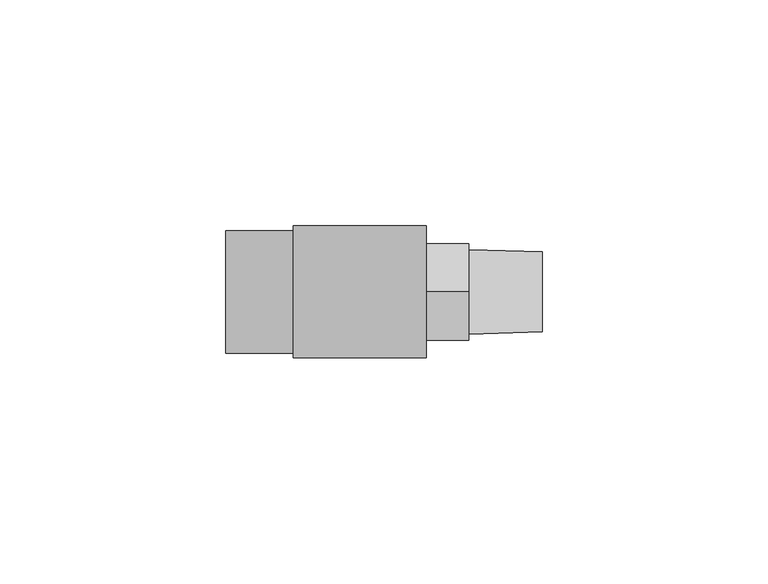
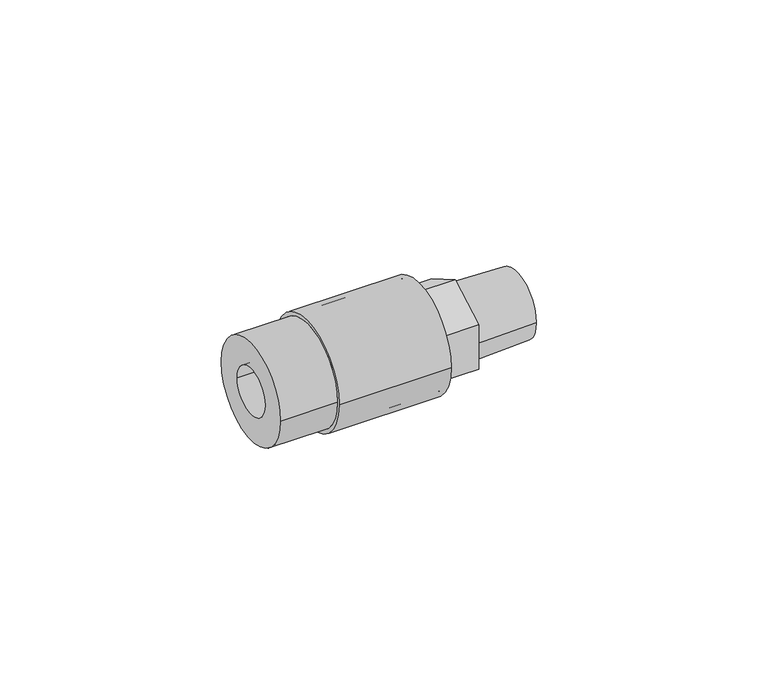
"""IFC4 building model written with IfcOpenShell, lengths in millimetres: pipe fitting geometry, Aquatherm - Fusion Outlet Transition Male : POTABLE BRASS - HEX."""

import ifcopenshell
import ifcopenshell.guid

model = None  # the IFC model being written
_history = None  # IfcOwnerHistory: only IFC2X3 demands one
_inside = {}  # id of a spatial element -> (the spatial element, [elements in it])
_under = {}  # id of a project, library or spatial element -> (it, [spatial elements below it])
_declared = {}  # id of a project -> (the project, [libraries it declares])
_typed = {}  # id of a type object -> (the type object, [elements of that type])
_made_of = {}  # id of a material, layer set ... -> (it, [elements and type objects made of it])


def new_model(schema):
    """Start an empty IFC model of exactly this schema.

    Asked for "IFC4X3", IfcOpenShell would pick the latest addendum, in which some entities
    have other attributes; the version numbers below select the first issue.
    IFC2X3 requires an IfcOwnerHistory on every rooted entity: one is made here for all.
    """
    global model, _history
    if schema == "IFC4X3":
        model = ifcopenshell.file(schema_version=(4, 3, 0, 0))
    else:
        model = ifcopenshell.file(schema=schema)
    _inside.clear()
    _under.clear()
    _declared.clear()
    _typed.clear()
    _made_of.clear()
    _history = None
    if model.schema == "IFC2X3":
        org = make("IfcOrganization", Name="unknown")
        user = make(
            "IfcPersonAndOrganization",
            ThePerson=make("IfcPerson", FamilyName="unknown"),
            TheOrganization=org,
        )
        app = make(
            "IfcApplication",
            ApplicationDeveloper=org,
            Version="unknown",
            ApplicationFullName="unknown",
            ApplicationIdentifier="unknown",
        )
        _history = make(
            "IfcOwnerHistory",
            OwningUser=user,
            OwningApplication=app,
            ChangeAction="ADDED",
            CreationDate=0,
        )
    return model


def make(cls, **values):
    """One entity of the class cls with the attributes given. An attribute that is None is left unset."""
    return model.create_entity(
        cls, **{name: value for name, value in values.items() if value is not None}
    )


def rooted(cls, **values):
    """An entity with a GlobalId (a new one), such as an element, a storey or a relation."""
    return make(cls, GlobalId=ifcopenshell.guid.new(), OwnerHistory=_history, **values)


def si_unit(unit_type, name, prefix=None):
    """IfcSIUnit, for example si_unit("LENGTHUNIT", "METRE", prefix="MILLI")."""
    return make("IfcSIUnit", UnitType=unit_type, Prefix=prefix, Name=name)


def assignment(units):
    """IfcUnitAssignment: the units of a project."""
    return None if units is None else make("IfcUnitAssignment", Units=units)


def point(xyz):
    """IfcCartesianPoint."""
    return None if xyz is None else make("IfcCartesianPoint", Coordinates=xyz)


def direction(xyz):
    """IfcDirection."""
    return None if xyz is None else make("IfcDirection", DirectionRatios=xyz)


def frame(location, z_axis=None, x_axis=None):
    """IfcAxis2Placement3D, a coordinate frame: its origin and axes. An axis left out is left unset."""
    return make(
        "IfcAxis2Placement3D",
        Location=point(location),
        Axis=direction(z_axis),
        RefDirection=direction(x_axis),
    )


def origin():
    """The frame at (0, 0, 0) with its axes left unset."""
    return frame((0.0, 0.0, 0.0))


def place(relative_to, where):
    """IfcLocalPlacement: puts the frame where relative to a parent placement (None: the world)."""
    return make(
        "IfcLocalPlacement", PlacementRelTo=relative_to, RelativePlacement=where
    )


def context(
    kind, dimensions, precision=None, world=None, true_north=None, identifier=None
):
    """IfcGeometricRepresentationContext, for example the 3D "Model" context."""
    return make(
        "IfcGeometricRepresentationContext",
        ContextIdentifier=identifier,
        ContextType=kind,
        CoordinateSpaceDimension=dimensions,
        Precision=precision,
        WorldCoordinateSystem=world,
        TrueNorth=true_north,
    )


def project(units=None, contexts=None):
    """IfcProject with its units and contexts."""
    return rooted(
        "IfcProject",
        Name="project",
        RepresentationContexts=contexts,
        UnitsInContext=assignment(units),
    )


def spatial(cls, under=None, at=None, **own):
    """A site, building, storey or space (cls), placed at a placement, below another one or the project."""
    s = rooted(cls, ObjectPlacement=at, **own)
    if under is not None:
        _under.setdefault(under.id(), (under, []))[1].append(s)
    return s


def polyline(points):
    """IfcPolyline through the points."""
    return make("IfcPolyline", Points=[point(p) for p in points])


def circle_curve(where, radius):
    """IfcCircle in the frame where."""
    return make("IfcCircle", Position=where, Radius=radius)


def shape(context_of_items, identifier, shape_type, items):
    """IfcShapeRepresentation: the items that make up one representation, for example the "Body"."""
    return make(
        "IfcShapeRepresentation",
        ContextOfItems=context_of_items,
        RepresentationIdentifier=identifier,
        RepresentationType=shape_type,
        Items=items,
    )


def source(mapping_origin, context_of_items, identifier, shape_type, items):
    """IfcRepresentationMap: a shape defined once, which mapped items show again and again."""
    return make(
        "IfcRepresentationMap",
        MappingOrigin=mapping_origin,
        MappedRepresentation=shape(context_of_items, identifier, shape_type, items),
    )


def transform(
    local_origin,
    x_axis=None,
    y_axis=None,
    z_axis=None,
    scale=None,
    scale2=None,
    scale3=None,
    uniform=True,
):
    """IfcCartesianTransformationOperator3D, or its non-uniform kind. x_axis, y_axis, z_axis: its Axis1, 2, 3."""
    if uniform:
        return make(
            "IfcCartesianTransformationOperator3D",
            Axis1=direction(x_axis),
            Axis2=direction(y_axis),
            LocalOrigin=point(local_origin),
            Scale=scale,
            Axis3=direction(z_axis),
        )
    return make(
        "IfcCartesianTransformationOperator3DnonUniform",
        Axis1=direction(x_axis),
        Axis2=direction(y_axis),
        LocalOrigin=point(local_origin),
        Scale=scale,
        Axis3=direction(z_axis),
        Scale2=scale2,
        Scale3=scale3,
    )


def mapped(mapping_source, mapping_target):
    """IfcMappedItem: shows the shape of a source again, moved by a transform."""
    return make(
        "IfcMappedItem", MappingSource=mapping_source, MappingTarget=mapping_target
    )


def made_of(thing, what):
    """Note that an element or type object is made of a material, layer set ...; save() writes the relation."""
    if what is not None:
        _made_of.setdefault(what.id(), (what, []))[1].append(thing)
    return thing


def element(
    cls,
    number,
    at=None,
    inside=None,
    cuts=None,
    type_object=None,
    material=None,
    context=None,
    identifier="Body",
    shape_type=None,
    held_by="IfcProductDefinitionShape",
    body=None,
    shapes=None,
    **own,
):
    """One element of the class cls, such as IfcWall. Its Tag is "e" and its number.

    at: its placement. inside: the storey or other place that contains it. cuts: it is an
    opening in that element (IfcRelVoidsElement). A single representation is given by context,
    identifier, shape_type and body (its items); several are given by shapes. held_by: the class
    of the entity that holds the representations. save() writes the other relations.
    """
    e = rooted(cls, Tag="e%d" % number, ObjectPlacement=at, **own)
    if body is not None:
        shapes = [shape(context, identifier, shape_type, body)]
    if shapes is not None:
        e.Representation = make(held_by, Representations=shapes)
    if inside is not None:
        _inside.setdefault(inside.id(), (inside, []))[1].append(e)
    if cuts is not None:
        rooted(
            "IfcRelVoidsElement", RelatingBuildingElement=cuts, RelatedOpeningElement=e
        )
    if type_object is not None:
        _typed.setdefault(type_object.id(), (type_object, []))[1].append(e)
    return made_of(e, material)


def aggregate(whole, parts):
    """IfcRelAggregates: a whole, such as a stair, and the parts it consists of."""
    return rooted("IfcRelAggregates", RelatingObject=whole, RelatedObjects=parts)


def save(model, path):
    """Write the relations noted so far, then the file.

    IfcRelAggregates (storeys below a building ...), IfcRelContainedInSpatialStructure (elements
    in a storey), IfcRelDefinesByType, IfcRelAssociatesMaterial and IfcRelDeclares: one each for
    every whole, place, type object, material and project.
    """
    for whole, parts in _under.values():
        aggregate(whole, parts)
    for where, things in _inside.values():
        rooted(
            "IfcRelContainedInSpatialStructure",
            RelatedElements=things,
            RelatingStructure=where,
        )
    for kind, things in _typed.values():
        rooted("IfcRelDefinesByType", RelatedObjects=things, RelatingType=kind)
    for what, things in _made_of.values():
        rooted("IfcRelAssociatesMaterial", RelatedObjects=things, RelatingMaterial=what)
    for by, libraries in _declared.values():
        rooted("IfcRelDeclares", RelatingContext=by, RelatedDefinitions=libraries)
    model.write(path)


def plane_surface(at):
    """IfcPlane: the flat surface through the origin of the frame at, square to its z axis."""
    return make("IfcPlane", Position=at)


def cylinder_surface(at, radius):
    """IfcCylindricalSurface: all points at the distance radius from the z axis of the frame at."""
    return make("IfcCylindricalSurface", Position=at, Radius=radius)


def revolved_surface(curve, axis_point, axis_direction):
    """IfcSurfaceOfRevolution: the curve turned about the line through axis_point along axis_direction."""
    return make(
        "IfcSurfaceOfRevolution",
        SweptCurve=make("IfcArbitraryOpenProfileDef", ProfileType="CURVE", Curve=curve),
        AxisPosition=make("IfcAxis1Placement", Location=point(axis_point), Axis=direction(axis_direction)),
    )


def advanced_brep(points, edges, surfaces, faces):
    """IfcAdvancedBrep: a solid bounded by faces that lie on surfaces and meet in shared edges.

    An edge is (start, end): straight between two places in points (the first is 0);
    or (start, end, curve); or (start, end, curve, False) where it runs against its curve.
    A face is (place in surfaces, loops), or (place, loops, False) where it looks against
    its surface's normal. A loop lists edges by number (the first is 1), with a minus sign
    where the edge is run from its end to its start. The first loop is the outer one.
    """
    corners = [point(p) for p in points]
    vertices = [make("IfcVertexPoint", VertexGeometry=c) for c in corners]
    made = []
    for start, end, *more in edges:
        made.append(
            make(
                "IfcEdgeCurve",
                EdgeStart=vertices[start],
                EdgeEnd=vertices[end],
                EdgeGeometry=more[0] if more else make("IfcPolyline", Points=[corners[start], corners[end]]),
                SameSense=more[1] if len(more) > 1 else True,
            )
        )
    hull = []
    for where, loops, *sense in faces:
        bounds = []
        for j, loop in enumerate(loops):
            ring = [make("IfcOrientedEdge", EdgeElement=made[abs(k) - 1], Orientation=k > 0) for k in loop]
            bounds.append(
                make(
                    "IfcFaceOuterBound" if j == 0 else "IfcFaceBound",
                    Bound=make("IfcEdgeLoop", EdgeList=ring),
                    Orientation=True,
                )
            )
        hull.append(make("IfcAdvancedFace", Bounds=bounds, FaceSurface=surfaces[where], SameSense=sense[0] if sense else True))
    return make("IfcAdvancedBrep", Outer=make("IfcClosedShell", CfsFaces=hull))


def pipe_fitting_d3c5b5ec(model_context):
    return source(origin(), model_context, "Body", "AdvancedBrep", [
        advanced_brep(
        [(9.445625, 13.589, 0.0), (9.445625, -13.589, 0.0), (9.445625, 6.35, 0.0), (9.445625, -6.35, 0.0), (29.257625, 13.589, 0.0), (29.257625, -13.589, 0.0), (29.257625, 0.0, -12.3183453), (29.257625, -10.668, -6.1591727), (29.257625, -10.668, 6.1591727), (29.257625, 0.0, 12.3183453), (29.257625, 10.668, 6.1591727), (29.257625, 10.668, -6.1591727), (29.257625, 6.35, 0.0), (29.257625, -6.35, 0.0), (38.909625, 0.0, -12.3183453), (38.909625, 10.668, -6.1591727), (38.909625, 10.668, 6.1591727), (38.909625, 0.0, 12.3183453), (38.909625, -10.668, 6.1591727), (38.909625, -10.668, -6.1591727), (38.909625, 9.3810449, 0.0), (38.909625, -9.3810449, 0.0), (38.909625, 6.35, 0.0), (38.909625, -6.35, 0.0), (55.165625, -6.35, 0.0), (55.165625, 6.35, 0.0), (55.165625, -8.8752051, 0.0), (55.165625, 8.8752051, 0.0)],
        [
            (0, 1, circle_curve(frame((9.445625, 0.0, 0.0), z_axis=(-1.0, 0.0, 0.0), x_axis=(0.0, -1.0, 0.0)), 13.589)),
            (1, 0, circle_curve(frame((9.445625, 0.0, 0.0), z_axis=(-1.0, 0.0, 0.0), x_axis=(0.0, -1.0, 0.0)), 13.589)),
            (2, 3, circle_curve(frame((9.445625, 0.0, 0.0), z_axis=(1.0, 0.0, 0.0), x_axis=(0.0, -1.0, 0.0)), 6.35)),
            (3, 2, circle_curve(frame((9.445625, 0.0, 0.0), z_axis=(1.0, 0.0, 0.0), x_axis=(0.0, -1.0, 0.0)), 6.35)),
            (4, 5, circle_curve(frame((29.257625, 0.0, 0.0), z_axis=(1.0, 0.0, 0.0), x_axis=(0.0, -1.0, 0.0)), 13.589)),
            (5, 4, circle_curve(frame((29.257625, 0.0, 0.0), z_axis=(1.0, 0.0, 0.0), x_axis=(0.0, -1.0, 0.0)), 13.589)),
            (6, 7),
            (7, 8),
            (8, 9),
            (9, 10),
            (10, 11),
            (11, 6),
            (0, 4),
            (5, 1),
            (2, 12),
            (12, 13, circle_curve(frame((29.257625, 0.0, 0.0), z_axis=(1.0, 0.0, 0.0), x_axis=(0.0, -1.0, 0.0)), 6.35)),
            (13, 3),
            (13, 12, circle_curve(frame((29.257625, 0.0, 0.0), z_axis=(1.0, 0.0, 0.0), x_axis=(0.0, -1.0, 0.0)), 6.35)),
            (14, 15),
            (15, 16),
            (16, 17),
            (17, 18),
            (18, 19),
            (19, 14),
            (20, 21, circle_curve(frame((38.909625, 0.0, 0.0), z_axis=(-1.0, 0.0, 0.0), x_axis=(0.0, -1.0, 0.0)), 9.3810449)),
            (21, 20, circle_curve(frame((38.909625, 0.0, 0.0), z_axis=(-1.0, 0.0, 0.0), x_axis=(0.0, -1.0, 0.0)), 9.3810449)),
            (19, 7),
            (6, 14),
            (18, 8),
            (17, 9),
            (16, 10),
            (15, 11),
            (12, 22),
            (22, 23, circle_curve(frame((38.909625, 0.0, 0.0), z_axis=(1.0, 0.0, 0.0), x_axis=(0.0, -1.0, 0.0)), 6.35)),
            (23, 13),
            (23, 22, circle_curve(frame((38.909625, 0.0, 0.0), z_axis=(1.0, 0.0, 0.0), x_axis=(0.0, -1.0, 0.0)), 6.35)),
            (23, 24),
            (24, 25, circle_curve(frame((55.165625, 0.0, 0.0), z_axis=(1.0, 0.0, 0.0), x_axis=(0.0, -1.0, 0.0)), 6.35)),
            (25, 22),
            (25, 24, circle_curve(frame((55.165625, 0.0, 0.0), z_axis=(1.0, 0.0, 0.0), x_axis=(0.0, -1.0, 0.0)), 6.35)),
            (24, 26),
            (26, 27, circle_curve(frame((55.165625, 0.0, 0.0), z_axis=(1.0, 0.0, 0.0), x_axis=(0.0, -1.0, 0.0)), 8.8752051)),
            (27, 25),
            (27, 26, circle_curve(frame((55.165625, 0.0, 0.0), z_axis=(1.0, 0.0, 0.0), x_axis=(0.0, -1.0, 0.0)), 8.8752051)),
            (26, 21),
            (20, 27),
        ],
        [
            plane_surface(frame((9.445625, -13.589, 0.0), z_axis=(-1.0, 0.0, 0.0), x_axis=(0.0, 0.0, 1.0))),
            plane_surface(frame((29.257625, -13.589, 0.0), z_axis=(1.0, 0.0, 0.0), x_axis=(0.0, 0.0, -1.0))),
            cylinder_surface(frame((29.257625, 0.0, 0.0), z_axis=(-1.0, 0.0, 0.0), x_axis=(0.0, -1.0, 0.0)), 13.589),
            revolved_surface(polyline([(29.257625, -6.35, 0.0), (9.445625, -6.35, 0.0)]), (11.810406, 0.0, 0.0), (1.0, 0.0, 0.0)),
            plane_surface(frame((38.909625, 0.0, -12.3183453), z_axis=(1.0, 0.0, 0.0), x_axis=(0.0, 0.8660254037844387, -0.5))),
            plane_surface(frame((29.257625, 0.0, -12.3183453), z_axis=(0.0, -0.5, -0.8660254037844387), x_axis=(1.0, 0.0, 0.0))),
            plane_surface(frame((29.257625, -10.668, -6.1591727), z_axis=(0.0, -1.0, 0.0), x_axis=(1.0, 0.0, 0.0))),
            plane_surface(frame((29.257625, -10.668, 6.1591727), z_axis=(0.0, -0.49999999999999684, 0.8660254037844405), x_axis=(1.0, 0.0, 0.0))),
            plane_surface(frame((29.257625, 0.0, 12.3183453), z_axis=(0.0, 0.5000000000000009, 0.8660254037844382), x_axis=(1.0, 0.0, 0.0))),
            plane_surface(frame((29.257625, 10.668, 6.1591727), z_axis=(0.0, 1.0, 0.0), x_axis=(1.0, 0.0, 0.0))),
            plane_surface(frame((29.257625, 10.668, -6.1591727), z_axis=(0.0, 0.49999999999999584, -0.8660254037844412), x_axis=(1.0, 0.0, 0.0))),
            revolved_surface(polyline([(38.909625, -6.35, 0.0), (29.257625, -6.35, 0.0)]), (29.257625, 0.0, 0.0), (1.0, 0.0, 0.0)),
            revolved_surface(polyline([(55.165625, -6.35, 0.0), (38.909625, -6.35, 0.0)]), (90.0386938, 0.0, 0.0), (1.0, 0.0, 0.0)),
            plane_surface(frame((55.165625, 0.0, 0.0), z_axis=(1.0, 0.0, 0.0), x_axis=(0.0, -1.0, 0.0))),
            revolved_surface(polyline([(38.909625, -9.3810449, 0.0), (55.165625, -8.8752051, 0.0)]), (90.0386938, 0.0, 0.0), (1.0, 0.0, 0.0)),
        ],
        [
            (0, [[1, 2], [3, 4]]),
            (1, [[5, 6], [7, 8, 9, 10, 11, 12]]),
            (2, [[-1, 13, -6, 14]]),
            (2, [[-2, -14, -5, -13]]),
            (3, [[-3, 15, 16, 17]]),
            (3, [[-4, -17, 18, -15]]),
            (4, [[19, 20, 21, 22, 23, 24], [25, 26]]),
            (5, [[-24, 27, -7, 28]]),
            (6, [[-23, 29, -8, -27]]),
            (7, [[-22, 30, -9, -29]]),
            (8, [[-21, 31, -10, -30]]),
            (9, [[-20, 32, -11, -31]]),
            (10, [[-19, -28, -12, -32]]),
            (11, [[33, 34, 35, -16]]),
            (11, [[-33, -18, -35, 36]]),
            (12, [[37, 38, 39, -36]]),
            (12, [[-37, -34, -39, 40]]),
            (13, [[-38, 41, 42, 43]]),
            (13, [[-40, -43, 44, -41]]),
            (14, [[-42, 45, -25, 46]]),
            (14, [[-44, -46, -26, -45]]),
        ],
    ),
        advanced_brep(
        [(9.4257813, 13.5929688, 0.0), (9.4257813, -13.5929687, 0.0), (9.4257813, 6.35, 0.0), (9.4257813, -6.35, 0.0), (-14.8967568, -6.35, 0.0), (-14.8967568, 6.35, 0.0), (-14.8967568, -13.5929688, 0.0), (-14.8967568, 13.5929688, 0.0), (0.0, 13.5929688, 0.0), (0.0, -13.5929688, 0.0), (29.4441562, 14.6347656, 0.0), (29.4441562, -14.6347656, 0.0), (29.4441562, 13.5929688, 0.0), (29.4441562, -13.5929687, 0.0), (0.0, -14.6347656, 0.0), (0.0, 14.6347656, 0.0)],
        [
            (0, 1, circle_curve(frame((9.4257813, 0.0, 0.0), z_axis=(1.0, 0.0, 0.0), x_axis=(0.0, -1.0, 0.0)), 13.5929688)),
            (1, 0, circle_curve(frame((9.4257813, 0.0, 0.0), z_axis=(1.0, 0.0, 0.0), x_axis=(0.0, -1.0, 0.0)), 13.5929688)),
            (2, 3, circle_curve(frame((9.4257813, 0.0, 0.0), z_axis=(-1.0, 0.0, 0.0), x_axis=(0.0, -1.0, 0.0)), 6.35)),
            (3, 2, circle_curve(frame((9.4257813, 0.0, 0.0), z_axis=(-1.0, 0.0, 0.0), x_axis=(0.0, -1.0, 0.0)), 6.35)),
            (4, 5, circle_curve(frame((-14.8967568, 0.0, 0.0), z_axis=(-1.0, 0.0, 0.0), x_axis=(0.0, -1.0, 0.0)), 6.35)),
            (5, 2),
            (3, 4),
            (5, 4, circle_curve(frame((-14.8967568, 0.0, 0.0), z_axis=(-1.0, 0.0, 0.0), x_axis=(0.0, -1.0, 0.0)), 6.35)),
            (6, 7, circle_curve(frame((-14.8967568, 0.0, 0.0), z_axis=(1.0, 0.0, 0.0), x_axis=(0.0, -1.0, 0.0)), 13.5929688)),
            (7, 8),
            (8, 9, circle_curve(frame((0.0, 0.0, 0.0), z_axis=(-1.0, 0.0, 0.0), x_axis=(0.0, -1.0, 0.0)), 13.5929688)),
            (9, 6),
            (7, 6, circle_curve(frame((-14.8967568, 0.0, 0.0), z_axis=(1.0, 0.0, 0.0), x_axis=(0.0, -1.0, 0.0)), 13.5929688)),
            (9, 8, circle_curve(frame((0.0, 0.0, 0.0), z_axis=(-1.0, 0.0, 0.0), x_axis=(0.0, -1.0, 0.0)), 13.5929688)),
            (10, 11, circle_curve(frame((29.4441562, 0.0, 0.0), z_axis=(1.0, 0.0, 0.0), x_axis=(0.0, -1.0, 0.0)), 14.6347656)),
            (11, 10, circle_curve(frame((29.4441562, 0.0, 0.0), z_axis=(1.0, 0.0, 0.0), x_axis=(0.0, -1.0, 0.0)), 14.6347656)),
            (12, 13, circle_curve(frame((29.4441562, 0.0, 0.0), z_axis=(-1.0, 0.0, 0.0), x_axis=(0.0, -1.0, 0.0)), 13.5929688)),
            (13, 12, circle_curve(frame((29.4441562, 0.0, 0.0), z_axis=(-1.0, 0.0, 0.0), x_axis=(0.0, -1.0, 0.0)), 13.5929688)),
            (13, 1),
            (0, 12),
            (11, 14),
            (14, 15, circle_curve(frame((0.0, 0.0, 0.0), z_axis=(1.0, 0.0, 0.0), x_axis=(0.0, -1.0, 0.0)), 14.6347656)),
            (15, 10),
            (15, 14, circle_curve(frame((0.0, 0.0, 0.0), z_axis=(1.0, 0.0, 0.0), x_axis=(0.0, -1.0, 0.0)), 14.6347656)),
        ],
        [
            plane_surface(frame((9.4257813, -6.35, 0.0), z_axis=(1.0, 0.0, 0.0), x_axis=(0.0, 0.0, 1.0))),
            revolved_surface(polyline([(9.4257813, -6.35, 0.0), (-14.896756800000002, -6.35, 0.0)]), (9.4257813, 0.0, 0.0), (1.0, 0.0, 0.0)),
            cylinder_surface(frame((0.0, 0.0, 0.0), z_axis=(-1.0, 0.0, 0.0), x_axis=(0.0, -1.0, 0.0)), 13.5929688),
            plane_surface(frame((29.4441562, -13.5929687, 0.0), z_axis=(1.0, 0.0, 0.0), x_axis=(0.0, 0.0, 1.0))),
            revolved_surface(polyline([(29.4441562, -13.5929688, 0.0), (9.4257813, -13.5929688, 0.0)]), (29.4441562, 0.0, 0.0), (1.0, 0.0, 0.0)),
            cylinder_surface(frame((0.0, 0.0, 0.0), z_axis=(-1.0, 0.0, 0.0), x_axis=(0.0, -1.0, 0.0)), 14.6347656),
            plane_surface(frame((-14.8967568, -6.35, 0.0), z_axis=(-1.0, 0.0, 0.0), x_axis=(0.0, 0.0, -1.0))),
            plane_surface(frame((0.0, -13.5929687, 0.0), z_axis=(-1.0, 0.0, 0.0), x_axis=(0.0, 0.0, -1.0))),
        ],
        [
            (0, [[1, 2], [3, 4]]),
            (1, [[5, 6, -4, 7]]),
            (1, [[8, -7, -3, -6]]),
            (2, [[9, 10, 11, 12]]),
            (2, [[13, -12, 14, -10]]),
            (3, [[15, 16], [17, 18]]),
            (4, [[-18, 19, -1, 20]]),
            (4, [[-17, -20, -2, -19]]),
            (5, [[-16, 21, 22, 23]]),
            (5, [[-15, -23, 24, -21]]),
            (6, [[-9, -13], [-5, -8]]),
            (7, [[-22, -24], [-11, -14]]),
        ],
    ),
    ])


if __name__ == "__main__":
    model = new_model("IFC4")
    model_context = context("Model", 3, world=origin())
    ifc_project = project(units=[si_unit("LENGTHUNIT", "METRE", prefix="MILLI")], contexts=[model_context])
    site = spatial("IfcSite", under=ifc_project)
    building = spatial("IfcBuilding", under=site)
    placement = place(None, origin())
    pipe_fitting_shape = pipe_fitting_d3c5b5ec(model_context)
    element("IfcPipeFitting", 1, ObjectType="Aquatherm - Fusion Outlet Transition Male : POTABLE BRASS - HEX", at=placement, inside=building, context=model_context, shape_type="MappedRepresentation", body=[
        mapped(pipe_fitting_shape, transform((0.0, 0.0, 0.0), x_axis=(1.0, 0.0, 0.0), y_axis=(0.0, 1.0, 0.0), z_axis=(0.0, 0.0, 1.0))),
    ])
    save(model, "model.ifc")
